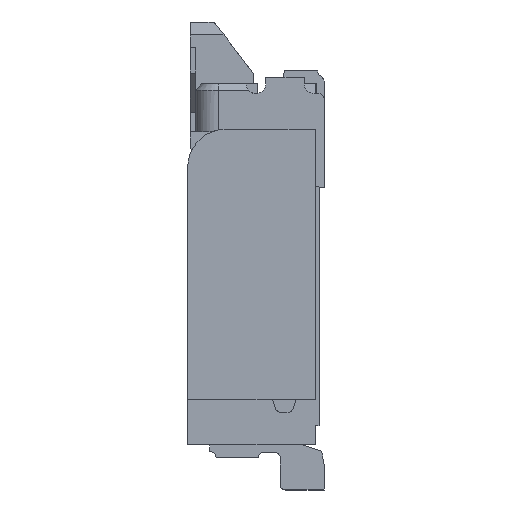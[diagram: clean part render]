
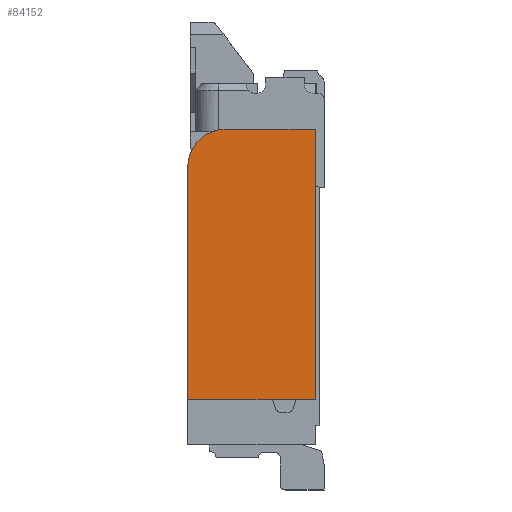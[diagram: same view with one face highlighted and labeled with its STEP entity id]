
A CAD part, left-side view. The second image highlights one B-rep face of the part: STEP entity #84152.
In plain terms, the highlighted planar face has unit normal (-1, 0, 0).
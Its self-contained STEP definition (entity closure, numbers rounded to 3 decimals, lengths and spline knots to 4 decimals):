
#1383=CIRCLE('',#87528,0.3);
#5369=ORIENTED_EDGE('',*,*,#23463,.T.);
#5370=ORIENTED_EDGE('',*,*,#24031,.T.);
#5371=ORIENTED_EDGE('',*,*,#24036,.T.);
#5372=ORIENTED_EDGE('',*,*,#24037,.T.);
#5373=ORIENTED_EDGE('',*,*,#24038,.F.);
#23463=EDGE_CURVE('',#32916,#32915,#39209,.T.);
#24031=EDGE_CURVE('',#32915,#33333,#39763,.T.);
#24036=EDGE_CURVE('',#33333,#33338,#39768,.T.);
#24037=EDGE_CURVE('',#33338,#33339,#39769,.T.);
#24038=EDGE_CURVE('',#32916,#33339,#1383,.T.);
#32915=VERTEX_POINT('',#112111);
#32916=VERTEX_POINT('',#112113);
#33333=VERTEX_POINT('',#113151);
#33338=VERTEX_POINT('',#113163);
#33339=VERTEX_POINT('',#113165);
#39209=LINE('',#112112,#47178);
#39763=LINE('',#113152,#47732);
#39768=LINE('',#113162,#47737);
#39769=LINE('',#113164,#47738);
#47178=VECTOR('',#93428,1000.);
#47732=VECTOR('',#94110,1000.);
#47737=VECTOR('',#94117,1000.);
#47738=VECTOR('',#94118,1000.);
#54453=EDGE_LOOP('',(#5369,#5370,#5371,#5372,#5373));
#57844=FACE_BOUND('',#54453,.T.);
#61150=PLANE('',#87527);
#84152=ADVANCED_FACE('',(#57844),#61150,.F.);
#87527=AXIS2_PLACEMENT_3D('',#113161,#94115,#94116);
#87528=AXIS2_PLACEMENT_3D('',#113166,#94119,#94120);
#93428=DIRECTION('',(0.,0.,-1.));
#94110=DIRECTION('',(0.,-1.,0.));
#94115=DIRECTION('',(1.,0.,0.));
#94116=DIRECTION('',(0.,0.,-1.));
#94117=DIRECTION('',(0.,0.,1.));
#94118=DIRECTION('',(0.,1.,0.));
#94119=DIRECTION('',(1.,0.,0.));
#94120=DIRECTION('',(0.,1.,0.));
#112111=CARTESIAN_POINT('',(-6.6,0.4606,-1.05));
#112112=CARTESIAN_POINT('',(-6.6,0.4606,0.75));
#112113=CARTESIAN_POINT('',(-6.6,0.4606,0.75));
#113151=CARTESIAN_POINT('',(-6.6,-0.5294,-1.05));
#113152=CARTESIAN_POINT('',(-6.6,0.4606,-1.05));
#113161=CARTESIAN_POINT('',(-6.6,-0.0344,0.));
#113162=CARTESIAN_POINT('',(-6.6,-0.5294,-1.05));
#113163=CARTESIAN_POINT('',(-6.6,-0.5294,1.05));
#113164=CARTESIAN_POINT('',(-6.6,-0.5294,1.05));
#113165=CARTESIAN_POINT('',(-6.6,0.1606,1.05));
#113166=CARTESIAN_POINT('',(-6.6,0.1606,0.75));
